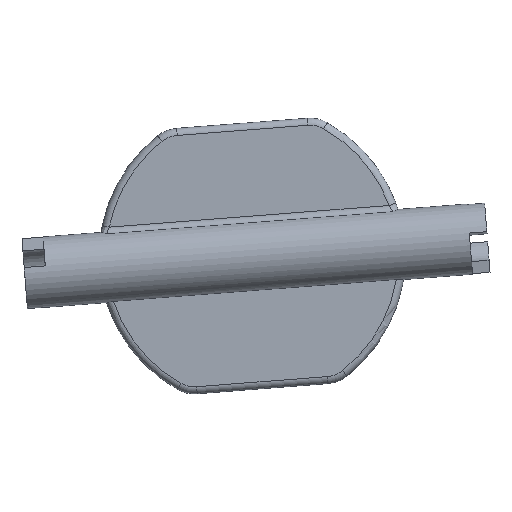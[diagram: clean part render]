
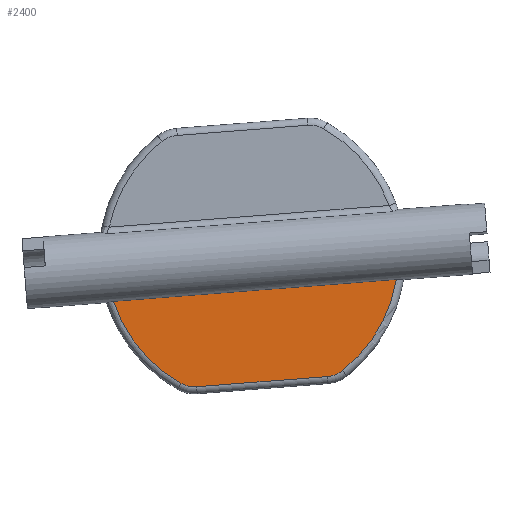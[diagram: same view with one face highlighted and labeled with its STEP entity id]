
A CAD part, front view. The second image highlights one B-rep face of the part: STEP entity #2400.
In plain terms, the highlighted planar face has unit normal (0, -1, 0).
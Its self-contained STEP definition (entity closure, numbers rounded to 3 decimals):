
#655=CARTESIAN_POINT('',(335.25,-1.,-161.716));
#656=DIRECTION('',(0.,1.,0.));
#657=DIRECTION('',(-0.49,0.,-0.872));
#658=AXIS2_PLACEMENT_3D('',#655,#656,#657);
#660=DIRECTION('',(-0.997,0.,-0.077));
#661=VECTOR('',#660,40.286);
#662=CARTESIAN_POINT('',(355.711,-1.,-165.044));
#663=LINE('',#662,#661);
#664=CARTESIAN_POINT('',(335.25,-1.,-161.716));
#665=DIRECTION('',(0.,1.,0.));
#666=DIRECTION('',(0.987,0.,-0.161));
#667=AXIS2_PLACEMENT_3D('',#664,#665,#666);
#669=CARTESIAN_POINT('',(345.599,-1.,-174.861));
#670=DIRECTION('',(0.,1.,0.));
#671=DIRECTION('',(0.619,0.,-0.786));
#672=AXIS2_PLACEMENT_3D('',#669,#670,#671);
#674=DIRECTION('',(-0.997,0.,-0.077));
#675=VECTOR('',#674,18.605);
#676=CARTESIAN_POINT('',(345.908,-1.,-178.849));
#677=LINE('',#676,#675);
#678=CARTESIAN_POINT('',(327.049,-1.,-176.298));
#679=DIRECTION('',(0.,1.,0.));
#680=DIRECTION('',(0.077,0.,-0.997));
#681=AXIS2_PLACEMENT_3D('',#678,#679,#680);
#1272=CARTESIAN_POINT('',(325.088,-1.,-179.784));
#1273=CARTESIAN_POINT('',(315.546,-1.,-168.156));
#1274=VERTEX_POINT('',#1272);
#1275=VERTEX_POINT('',#1273);
#1280=CARTESIAN_POINT('',(327.358,-1.,-180.286));
#1281=VERTEX_POINT('',#1280);
#1282=CARTESIAN_POINT('',(345.908,-1.,-178.849));
#1283=VERTEX_POINT('',#1282);
#1284=CARTESIAN_POINT('',(348.073,-1.,-178.004));
#1285=VERTEX_POINT('',#1284);
#1290=CARTESIAN_POINT('',(355.711,-1.,-165.044));
#1291=VERTEX_POINT('',#1290);
#2381=CARTESIAN_POINT('',(0.,-1.,0.));
#2382=DIRECTION('',(0.,-1.,0.));
#2383=DIRECTION('',(1.,0.,0.));
#2384=AXIS2_PLACEMENT_3D('',#2381,#2382,#2383);
#2385=PLANE('',#2384);
#2387=ORIENTED_EDGE('',*,*,#2386,.T.);
#2389=ORIENTED_EDGE('',*,*,#2388,.F.);
#2391=ORIENTED_EDGE('',*,*,#2390,.T.);
#2393=ORIENTED_EDGE('',*,*,#2392,.T.);
#2395=ORIENTED_EDGE('',*,*,#2394,.T.);
#2397=ORIENTED_EDGE('',*,*,#2396,.T.);
#2398=EDGE_LOOP('',(#2387,#2389,#2391,#2393,#2395,#2397));
#2399=FACE_OUTER_BOUND('',#2398,.F.);
#2400=ADVANCED_FACE('',(#2399),#2385,.T.);
#659=CIRCLE('',#658,20.73);
#668=CIRCLE('',#667,20.73);
#673=CIRCLE('',#672,4.);
#682=CIRCLE('',#681,4.);
#2386=EDGE_CURVE('',#1274,#1275,#659,.T.);
#2388=EDGE_CURVE('',#1291,#1275,#663,.T.);
#2390=EDGE_CURVE('',#1291,#1285,#668,.T.);
#2392=EDGE_CURVE('',#1285,#1283,#673,.T.);
#2394=EDGE_CURVE('',#1283,#1281,#677,.T.);
#2396=EDGE_CURVE('',#1281,#1274,#682,.T.);
